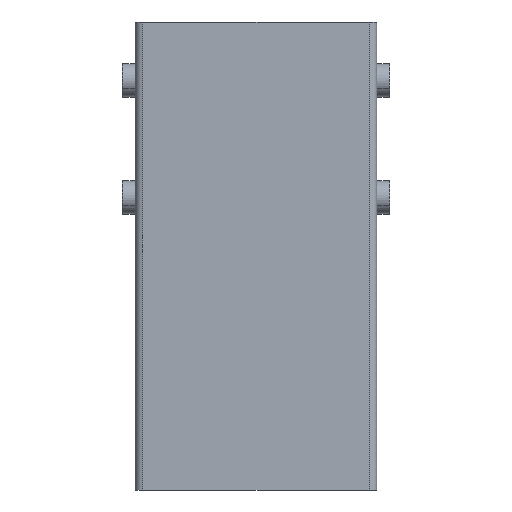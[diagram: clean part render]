
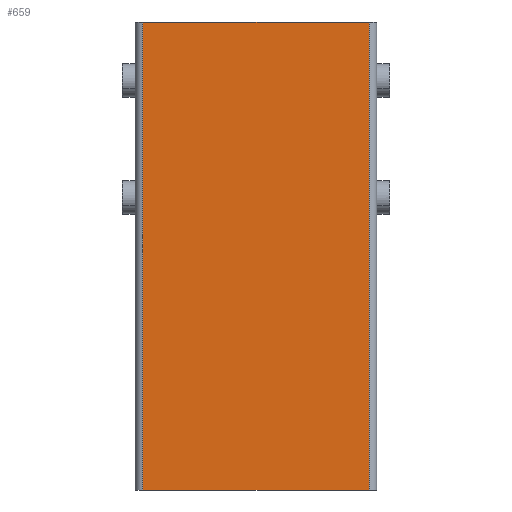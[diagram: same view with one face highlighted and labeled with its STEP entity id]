
A CAD part, front view. The second image highlights one B-rep face of the part: STEP entity #659.
In plain terms, the highlighted planar face has unit normal (0, -1, 0).
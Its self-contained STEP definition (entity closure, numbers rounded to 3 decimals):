
#40 = DIRECTION ( 'NONE',  ( 0., 1., 0. ) ) ;
#103 = DIRECTION ( 'NONE',  ( 1., 0., 0. ) ) ;
#139 = VECTOR ( 'NONE', #103, 1000. ) ;
#142 = VERTEX_POINT ( 'NONE', #984 ) ;
#153 = CARTESIAN_POINT ( 'NONE',  ( -45., -46.5, 90. ) ) ;
#154 = VERTEX_POINT ( 'NONE', #727 ) ;
#200 = VECTOR ( 'NONE', #1044, 1000. ) ;
#288 = EDGE_CURVE ( 'NONE', #1321, #142, #2330, .T. ) ;
#297 = DIRECTION ( 'NONE',  ( 0., 0., 1. ) ) ;
#314 = PLANE ( 'NONE',  #1694 ) ;
#466 = EDGE_CURVE ( 'NONE', #154, #142, #2284, .T. ) ;
#495 = VERTEX_POINT ( 'NONE', #2492 ) ;
#587 = ORIENTED_EDGE ( 'NONE', *, *, #2339, .T. ) ;
#629 = ORIENTED_EDGE ( 'NONE', *, *, #466, .F. ) ;
#659 = ADVANCED_FACE ( 'NONE', ( #682 ), #314, .F. ) ;
#682 = FACE_OUTER_BOUND ( 'NONE', #2557, .T. ) ;
#727 = CARTESIAN_POINT ( 'NONE',  ( 43.5, -46.5, 90. ) ) ;
#853 = CARTESIAN_POINT ( 'NONE',  ( 43.5, -46.5, 90. ) ) ;
#984 = CARTESIAN_POINT ( 'NONE',  ( 43.5, -46.5, -90. ) ) ;
#1044 = DIRECTION ( 'NONE',  ( 1., 0., 0. ) ) ;
#1233 = CARTESIAN_POINT ( 'NONE',  ( -43.5, -46.5, 90. ) ) ;
#1321 = VERTEX_POINT ( 'NONE', #2497 ) ;
#1334 = LINE ( 'NONE', #1233, #3020 ) ;
#1519 = ORIENTED_EDGE ( 'NONE', *, *, #288, .T. ) ;
#1636 = VECTOR ( 'NONE', #2477, 1000. ) ;
#1689 = CARTESIAN_POINT ( 'NONE',  ( -45., -46.5, 90. ) ) ;
#1694 = AXIS2_PLACEMENT_3D ( 'NONE', #1689, #40, #297 ) ;
#1703 = DIRECTION ( 'NONE',  ( 0., 0., -1. ) ) ;
#1954 = ORIENTED_EDGE ( 'NONE', *, *, #1987, .F. ) ;
#1987 = EDGE_CURVE ( 'NONE', #495, #154, #2351, .T. ) ;
#2284 = LINE ( 'NONE', #853, #1636 ) ;
#2330 = LINE ( 'NONE', #2627, #139 ) ;
#2339 = EDGE_CURVE ( 'NONE', #495, #1321, #1334, .T. ) ;
#2351 = LINE ( 'NONE', #153, #200 ) ;
#2477 = DIRECTION ( 'NONE',  ( 0., 0., -1. ) ) ;
#2492 = CARTESIAN_POINT ( 'NONE',  ( -43.5, -46.5, 90. ) ) ;
#2497 = CARTESIAN_POINT ( 'NONE',  ( -43.5, -46.5, -90. ) ) ;
#2557 = EDGE_LOOP ( 'NONE', ( #1519, #629, #1954, #587 ) ) ;
#2627 = CARTESIAN_POINT ( 'NONE',  ( -45., -46.5, -90. ) ) ;
#3020 = VECTOR ( 'NONE', #1703, 1000. ) ;
